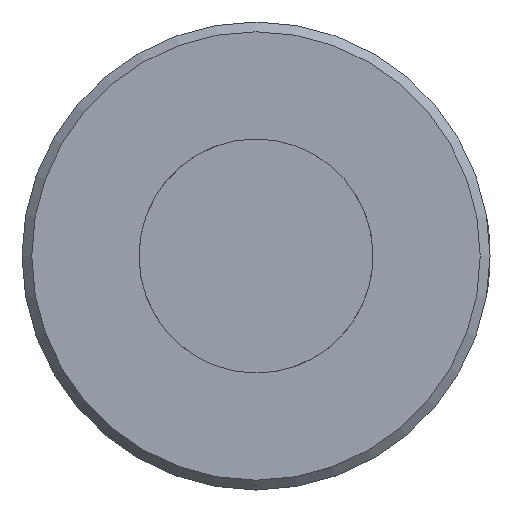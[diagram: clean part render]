
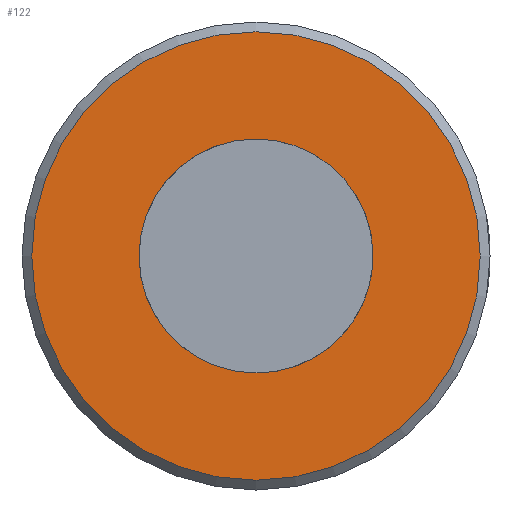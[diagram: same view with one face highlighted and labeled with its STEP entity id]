
A CAD part, left-side view. The second image highlights one B-rep face of the part: STEP entity #122.
In plain terms, the highlighted planar face has unit normal (-1, 0, 0).
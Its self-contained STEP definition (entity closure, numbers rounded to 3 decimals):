
#113=PLANE('',#340);
#122=ADVANCED_FACE('',(#179,#180),#113,.F.);
#179=FACE_BOUND('',#198,.T.);
#180=FACE_BOUND('',#199,.T.);
#198=EDGE_LOOP('',(#231));
#199=EDGE_LOOP('',(#232));
#231=ORIENTED_EDGE('',*,*,#306,.T.);
#232=ORIENTED_EDGE('',*,*,#304,.T.);
#283=VERTEX_POINT('',#575);
#285=VERTEX_POINT('',#580);
#304=EDGE_CURVE('',#283,#283,#323,.T.);
#306=EDGE_CURVE('',#285,#285,#325,.T.);
#323=CIRCLE('',#336,6.);
#325=CIRCLE('',#339,11.5);
#336=AXIS2_PLACEMENT_3D('',#574,#369,#370);
#339=AXIS2_PLACEMENT_3D('',#579,#375,#376);
#340=AXIS2_PLACEMENT_3D('',#581,#377,#378);
#369=DIRECTION('',(1.,0.,0.));
#370=DIRECTION('',(0.,-0.635,0.772));
#375=DIRECTION('',(-1.,0.,0.));
#376=DIRECTION('',(0.,0.,-1.));
#377=DIRECTION('',(1.,0.,0.));
#378=DIRECTION('',(0.,0.,-1.));
#574=CARTESIAN_POINT('',(-43.75,0.,0.));
#575=CARTESIAN_POINT('',(-43.75,-3.812,4.634));
#579=CARTESIAN_POINT('',(-43.75,0.,0.));
#580=CARTESIAN_POINT('',(-43.75,0.,-11.5));
#581=CARTESIAN_POINT('',(-43.75,0.,0.));
